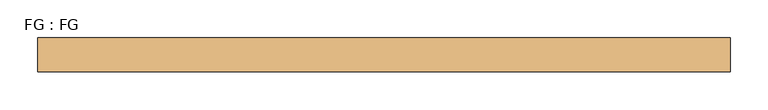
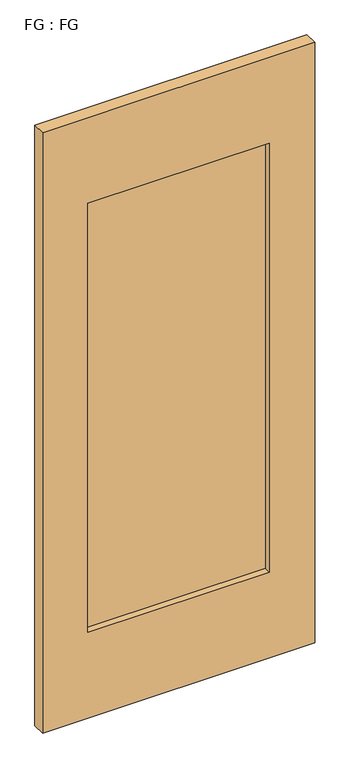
"""IFC4 building model written with IfcOpenShell, lengths in millimetres: door geometry, FG : FG."""

from ifc_helpers import new_model, si_unit, frame, origin, place, context, project, spatial, polyline, outline, extrude, source, transform, mapped, element, save


def fg_fg_e7150109(model_context):
    return source(origin(), model_context, "Body", "SweptSolid", [
        extrude(outline(polyline([(304.8, 6.35), (304.8, 0.0), (-304.8, 0.0), (-304.8, 6.35), (304.8, 6.35)])), frame((0.0, 0.0, 304.8), z_axis=(0.0, 0.0, 1.0), x_axis=(1.0, 0.0, 0.0)), (0.0, 0.0, 1.0), 1524.0),
        extrude(outline(polyline([(2133.6, -457.2), (0.0, -457.2), (0.0, 457.2), (2133.6, 457.2), (2133.6, -457.2)]), holes=[polyline([(1828.8, -304.8), (1828.8, 304.8), (304.8, 304.8), (304.8, -304.8), (1828.8, -304.8)])]), frame((0.0, -22.225, 0.0), z_axis=(0.0, 1.0, 0.0), x_axis=(0.0, 0.0, 1.0)), (0.0, 0.0, 1.0), 44.45),
    ])


if __name__ == "__main__":
    model = new_model("IFC4")
    model_context = context("Model", 3, world=origin())
    ifc_project = project(units=[si_unit("LENGTHUNIT", "METRE", prefix="MILLI")], contexts=[model_context])
    site = spatial("IfcSite", under=ifc_project)
    building = spatial("IfcBuilding", under=site)
    placement = place(None, origin())
    fg_fg_shape = fg_fg_e7150109(model_context)
    element("IfcDoor", 1, ObjectType="FG : FG", at=placement, inside=building, context=model_context, shape_type="MappedRepresentation", body=[
        mapped(fg_fg_shape, transform((0.0, 0.0, 0.0), x_axis=(1.0, 0.0, 0.0), y_axis=(0.0, 1.0, 0.0), z_axis=(0.0, 0.0, 1.0))),
    ])
    save(model, "model.ifc")
